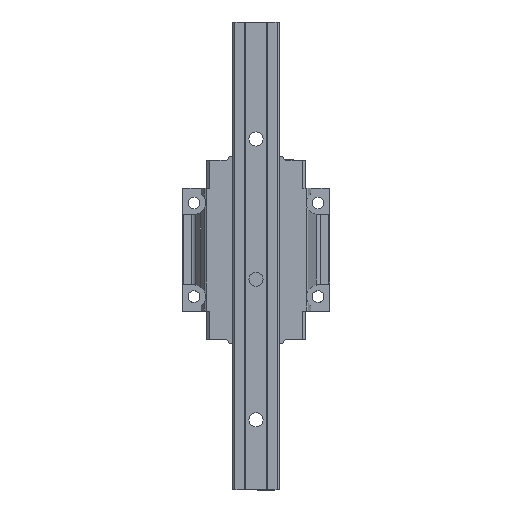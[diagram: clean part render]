
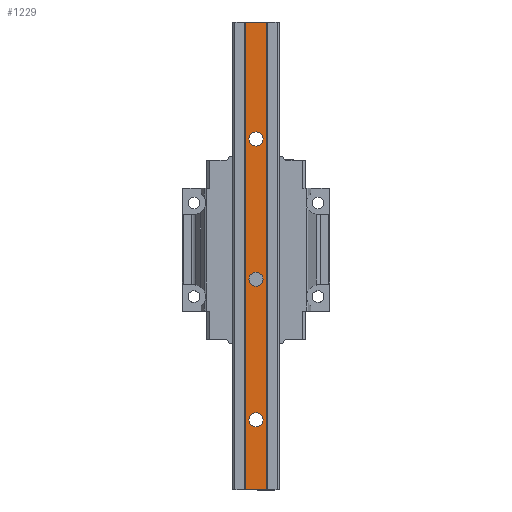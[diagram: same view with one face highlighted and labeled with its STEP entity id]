
A CAD part, front view. The second image highlights one B-rep face of the part: STEP entity #1229.
In plain terms, the highlighted planar face has unit normal (0, -1, 0).
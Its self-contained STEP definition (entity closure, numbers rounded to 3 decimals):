
#1229=ADVANCED_FACE('',(#3327,#3328,#3329,#3330),#1709,.T.);
#1709=PLANE('',#8992);
#1913=LINE('',#11639,#2563);
#1914=LINE('',#11642,#2564);
#1915=LINE('',#11644,#2565);
#1916=LINE('',#11646,#2566);
#2563=VECTOR('',#9620,1.);
#2564=VECTOR('',#9621,1.);
#2565=VECTOR('',#9622,1.);
#2566=VECTOR('',#9623,1.);
#3327=FACE_BOUND('',#3497,.T.);
#3328=FACE_BOUND('',#3498,.T.);
#3329=FACE_BOUND('',#3499,.T.);
#3330=FACE_BOUND('',#3500,.T.);
#3497=EDGE_LOOP('',(#4073));
#3498=EDGE_LOOP('',(#4074,#4075,#4076,#4077));
#3499=EDGE_LOOP('',(#4078));
#3500=EDGE_LOOP('',(#4079));
#4073=ORIENTED_EDGE('',*,*,#7456,.T.);
#4074=ORIENTED_EDGE('',*,*,#7457,.F.);
#4075=ORIENTED_EDGE('',*,*,#7458,.F.);
#4076=ORIENTED_EDGE('',*,*,#7459,.T.);
#4077=ORIENTED_EDGE('',*,*,#7460,.T.);
#4078=ORIENTED_EDGE('',*,*,#7461,.T.);
#4079=ORIENTED_EDGE('',*,*,#7462,.T.);
#6591=VERTEX_POINT('',#11638);
#6592=VERTEX_POINT('',#11640);
#6593=VERTEX_POINT('',#11641);
#6594=VERTEX_POINT('',#11643);
#6595=VERTEX_POINT('',#11645);
#6596=VERTEX_POINT('',#11648);
#6597=VERTEX_POINT('',#11650);
#7456=EDGE_CURVE('',#6591,#6591,#8715,.T.);
#7457=EDGE_CURVE('',#6592,#6593,#1913,.T.);
#7458=EDGE_CURVE('',#6594,#6592,#1914,.T.);
#7459=EDGE_CURVE('',#6594,#6595,#1915,.T.);
#7460=EDGE_CURVE('',#6595,#6593,#1916,.T.);
#7461=EDGE_CURVE('',#6596,#6596,#8716,.T.);
#7462=EDGE_CURVE('',#6597,#6597,#8717,.T.);
#8715=CIRCLE('',#8989,3.);
#8716=CIRCLE('',#8990,3.);
#8717=CIRCLE('',#8991,3.);
#8989=AXIS2_PLACEMENT_3D('',#11637,#9618,#9619);
#8990=AXIS2_PLACEMENT_3D('',#11647,#9624,#9625);
#8991=AXIS2_PLACEMENT_3D('',#11649,#9626,#9627);
#8992=AXIS2_PLACEMENT_3D('',#11651,#9628,#9629);
#9618=DIRECTION('',(0.,1.,0.));
#9619=DIRECTION('',(0.,0.,-1.));
#9620=DIRECTION('',(-1.,0.,0.));
#9621=DIRECTION('',(0.,0.,-1.));
#9622=DIRECTION('',(-1.,0.,0.));
#9623=DIRECTION('',(0.,0.,-1.));
#9624=DIRECTION('',(0.,1.,0.));
#9625=DIRECTION('',(0.,0.,-1.));
#9626=DIRECTION('',(0.,1.,0.));
#9627=DIRECTION('',(0.,0.,-1.));
#9628=DIRECTION('',(0.,-1.,0.));
#9629=DIRECTION('',(0.,0.,-1.));
#11637=CARTESIAN_POINT('',(-8.714,-7.953,135.));
#11638=CARTESIAN_POINT('',(-8.714,-7.953,132.));
#11639=CARTESIAN_POINT('',(-4.214,-7.953,105.));
#11640=CARTESIAN_POINT('',(-4.214,-7.953,105.));
#11641=CARTESIAN_POINT('',(-13.214,-7.953,105.));
#11642=CARTESIAN_POINT('',(-4.214,-7.953,285.));
#11643=CARTESIAN_POINT('',(-4.214,-7.953,305.));
#11644=CARTESIAN_POINT('',(2.286,-7.953,305.));
#11645=CARTESIAN_POINT('',(-13.214,-7.953,305.));
#11646=CARTESIAN_POINT('',(-13.214,-7.953,285.));
#11647=CARTESIAN_POINT('',(-8.714,-7.953,255.));
#11648=CARTESIAN_POINT('',(-8.714,-7.953,252.));
#11649=CARTESIAN_POINT('',(-8.714,-7.953,195.));
#11650=CARTESIAN_POINT('',(-8.714,-7.953,192.));
#11651=CARTESIAN_POINT('',(-4.214,-7.953,285.));
